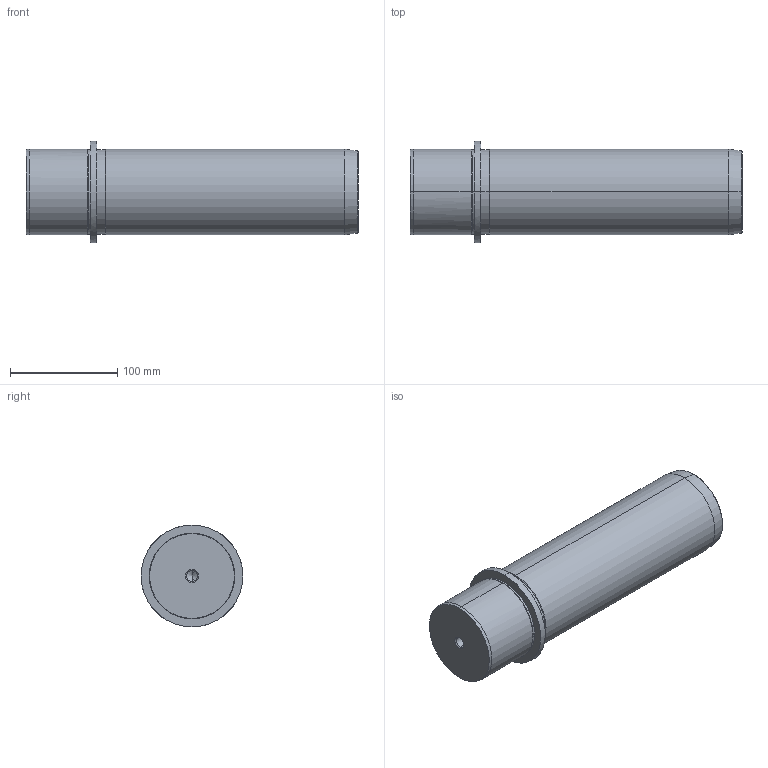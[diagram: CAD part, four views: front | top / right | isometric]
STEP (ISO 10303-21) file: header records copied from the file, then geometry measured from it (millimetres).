
FILE_DESCRIPTION(('CATIA V5 STEP Exchange'),'2;1');
FILE_NAME('C:\Users\Utente\Desktop\IO LAVORO\3D X SITO CF\X SITO\719\719-80x250.stp','2021-01-03T14:39:18+00:00',('none'),('none'),'CATIA Version 5 Release 20 GA (IN-10)','CATIA V5 STEP AP203','none');
FILE_SCHEMA(('CONFIG_CONTROL_DESIGN'));
Length unit declared in the file: millimetre
Products named in the file (1): 719-80x250
Bounding box: 310 x 95 x 95 mm (x, y, z)
Volume: 1562314.8 mm3; surface area: 93541.1 mm2
Topology: 1 solids, 1 shells, 36 faces, 112 edges, 78 vertices
Faces by surface type: cone 16, cylinder 14, plane 4, torus 2
Entity records: 1387 total; most frequent: CARTESIAN_POINT 376, ORIENTED_EDGE 216, DIRECTION 168, EDGE_CURVE 108, AXIS2_PLACEMENT_3D 103, VERTEX_POINT 78, CIRCLE 66, EDGE_LOOP 40
